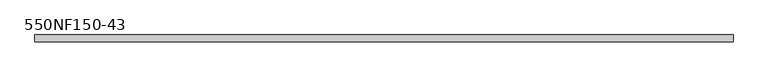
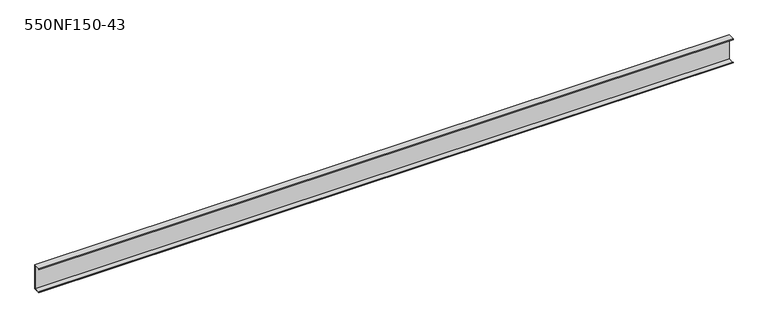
"""IFC4 building model written with IfcOpenShell, lengths in millimetres: beam geometry, BIMSF-SSMA-S : 550NF150-43."""

import ifcopenshell
import ifcopenshell.guid

model = None  # the IFC model being written
_history = None  # IfcOwnerHistory: only IFC2X3 demands one
_inside = {}  # id of a spatial element -> (the spatial element, [elements in it])
_under = {}  # id of a project, library or spatial element -> (it, [spatial elements below it])
_declared = {}  # id of a project -> (the project, [libraries it declares])
_typed = {}  # id of a type object -> (the type object, [elements of that type])
_made_of = {}  # id of a material, layer set ... -> (it, [elements and type objects made of it])


def new_model(schema):
    """Start an empty IFC model of exactly this schema.

    Asked for "IFC4X3", IfcOpenShell would pick the latest addendum, in which some entities
    have other attributes; the version numbers below select the first issue.
    IFC2X3 requires an IfcOwnerHistory on every rooted entity: one is made here for all.
    """
    global model, _history
    if schema == "IFC4X3":
        model = ifcopenshell.file(schema_version=(4, 3, 0, 0))
    else:
        model = ifcopenshell.file(schema=schema)
    _inside.clear()
    _under.clear()
    _declared.clear()
    _typed.clear()
    _made_of.clear()
    _history = None
    if model.schema == "IFC2X3":
        org = make("IfcOrganization", Name="unknown")
        user = make(
            "IfcPersonAndOrganization",
            ThePerson=make("IfcPerson", FamilyName="unknown"),
            TheOrganization=org,
        )
        app = make(
            "IfcApplication",
            ApplicationDeveloper=org,
            Version="unknown",
            ApplicationFullName="unknown",
            ApplicationIdentifier="unknown",
        )
        _history = make(
            "IfcOwnerHistory",
            OwningUser=user,
            OwningApplication=app,
            ChangeAction="ADDED",
            CreationDate=0,
        )
    return model


def make(cls, **values):
    """One entity of the class cls with the attributes given. An attribute that is None is left unset."""
    return model.create_entity(
        cls, **{name: value for name, value in values.items() if value is not None}
    )


def rooted(cls, **values):
    """An entity with a GlobalId (a new one), such as an element, a storey or a relation."""
    return make(cls, GlobalId=ifcopenshell.guid.new(), OwnerHistory=_history, **values)


def si_unit(unit_type, name, prefix=None):
    """IfcSIUnit, for example si_unit("LENGTHUNIT", "METRE", prefix="MILLI")."""
    return make("IfcSIUnit", UnitType=unit_type, Prefix=prefix, Name=name)


def assignment(units):
    """IfcUnitAssignment: the units of a project."""
    return None if units is None else make("IfcUnitAssignment", Units=units)


def point(xyz):
    """IfcCartesianPoint."""
    return None if xyz is None else make("IfcCartesianPoint", Coordinates=xyz)


def direction(xyz):
    """IfcDirection."""
    return None if xyz is None else make("IfcDirection", DirectionRatios=xyz)


def frame(location, z_axis=None, x_axis=None):
    """IfcAxis2Placement3D, a coordinate frame: its origin and axes. An axis left out is left unset."""
    return make(
        "IfcAxis2Placement3D",
        Location=point(location),
        Axis=direction(z_axis),
        RefDirection=direction(x_axis),
    )


def origin():
    """The frame at (0, 0, 0) with its axes left unset."""
    return frame((0.0, 0.0, 0.0))


def place(relative_to, where):
    """IfcLocalPlacement: puts the frame where relative to a parent placement (None: the world)."""
    return make(
        "IfcLocalPlacement", PlacementRelTo=relative_to, RelativePlacement=where
    )


def context(
    kind, dimensions, precision=None, world=None, true_north=None, identifier=None
):
    """IfcGeometricRepresentationContext, for example the 3D "Model" context."""
    return make(
        "IfcGeometricRepresentationContext",
        ContextIdentifier=identifier,
        ContextType=kind,
        CoordinateSpaceDimension=dimensions,
        Precision=precision,
        WorldCoordinateSystem=world,
        TrueNorth=true_north,
    )


def project(units=None, contexts=None):
    """IfcProject with its units and contexts."""
    return rooted(
        "IfcProject",
        Name="project",
        RepresentationContexts=contexts,
        UnitsInContext=assignment(units),
    )


def spatial(cls, under=None, at=None, **own):
    """A site, building, storey or space (cls), placed at a placement, below another one or the project."""
    s = rooted(cls, ObjectPlacement=at, **own)
    if under is not None:
        _under.setdefault(under.id(), (under, []))[1].append(s)
    return s


def polyline(points):
    """IfcPolyline through the points."""
    return make("IfcPolyline", Points=[point(p) for p in points])


def outline(outer, holes=None, kind="AREA"):
    """IfcArbitraryClosedProfileDef: a profile drawn as a closed curve; with holes, ...WithVoids."""
    if holes is None:
        return make("IfcArbitraryClosedProfileDef", ProfileType=kind, OuterCurve=outer)
    return make(
        "IfcArbitraryProfileDefWithVoids",
        ProfileType=kind,
        OuterCurve=outer,
        InnerCurves=holes,
    )


def extrude(swept, where, along, depth):
    """IfcExtrudedAreaSolid: the profile swept, set in the frame where, extruded along a direction by depth."""
    return make(
        "IfcExtrudedAreaSolid",
        SweptArea=swept,
        Position=where,
        ExtrudedDirection=direction(along),
        Depth=depth,
    )


def shape(context_of_items, identifier, shape_type, items):
    """IfcShapeRepresentation: the items that make up one representation, for example the "Body"."""
    return make(
        "IfcShapeRepresentation",
        ContextOfItems=context_of_items,
        RepresentationIdentifier=identifier,
        RepresentationType=shape_type,
        Items=items,
    )


def source(mapping_origin, context_of_items, identifier, shape_type, items):
    """IfcRepresentationMap: a shape defined once, which mapped items show again and again."""
    return make(
        "IfcRepresentationMap",
        MappingOrigin=mapping_origin,
        MappedRepresentation=shape(context_of_items, identifier, shape_type, items),
    )


def transform(
    local_origin,
    x_axis=None,
    y_axis=None,
    z_axis=None,
    scale=None,
    scale2=None,
    scale3=None,
    uniform=True,
):
    """IfcCartesianTransformationOperator3D, or its non-uniform kind. x_axis, y_axis, z_axis: its Axis1, 2, 3."""
    if uniform:
        return make(
            "IfcCartesianTransformationOperator3D",
            Axis1=direction(x_axis),
            Axis2=direction(y_axis),
            LocalOrigin=point(local_origin),
            Scale=scale,
            Axis3=direction(z_axis),
        )
    return make(
        "IfcCartesianTransformationOperator3DnonUniform",
        Axis1=direction(x_axis),
        Axis2=direction(y_axis),
        LocalOrigin=point(local_origin),
        Scale=scale,
        Axis3=direction(z_axis),
        Scale2=scale2,
        Scale3=scale3,
    )


def mapped(mapping_source, mapping_target):
    """IfcMappedItem: shows the shape of a source again, moved by a transform."""
    return make(
        "IfcMappedItem", MappingSource=mapping_source, MappingTarget=mapping_target
    )


def made_of(thing, what):
    """Note that an element or type object is made of a material, layer set ...; save() writes the relation."""
    if what is not None:
        _made_of.setdefault(what.id(), (what, []))[1].append(thing)
    return thing


def element(
    cls,
    number,
    at=None,
    inside=None,
    cuts=None,
    type_object=None,
    material=None,
    context=None,
    identifier="Body",
    shape_type=None,
    held_by="IfcProductDefinitionShape",
    body=None,
    shapes=None,
    **own,
):
    """One element of the class cls, such as IfcWall. Its Tag is "e" and its number.

    at: its placement. inside: the storey or other place that contains it. cuts: it is an
    opening in that element (IfcRelVoidsElement). A single representation is given by context,
    identifier, shape_type and body (its items); several are given by shapes. held_by: the class
    of the entity that holds the representations. save() writes the other relations.
    """
    e = rooted(cls, Tag="e%d" % number, ObjectPlacement=at, **own)
    if body is not None:
        shapes = [shape(context, identifier, shape_type, body)]
    if shapes is not None:
        e.Representation = make(held_by, Representations=shapes)
    if inside is not None:
        _inside.setdefault(inside.id(), (inside, []))[1].append(e)
    if cuts is not None:
        rooted(
            "IfcRelVoidsElement", RelatingBuildingElement=cuts, RelatedOpeningElement=e
        )
    if type_object is not None:
        _typed.setdefault(type_object.id(), (type_object, []))[1].append(e)
    return made_of(e, material)


def aggregate(whole, parts):
    """IfcRelAggregates: a whole, such as a stair, and the parts it consists of."""
    return rooted("IfcRelAggregates", RelatingObject=whole, RelatedObjects=parts)


def save(model, path):
    """Write the relations noted so far, then the file.

    IfcRelAggregates (storeys below a building ...), IfcRelContainedInSpatialStructure (elements
    in a storey), IfcRelDefinesByType, IfcRelAssociatesMaterial and IfcRelDeclares: one each for
    every whole, place, type object, material and project.
    """
    for whole, parts in _under.values():
        aggregate(whole, parts)
    for where, things in _inside.values():
        rooted(
            "IfcRelContainedInSpatialStructure",
            RelatedElements=things,
            RelatingStructure=where,
        )
    for kind, things in _typed.values():
        rooted("IfcRelDefinesByType", RelatedObjects=things, RelatingType=kind)
    for what, things in _made_of.values():
        rooted("IfcRelAssociatesMaterial", RelatedObjects=things, RelatingMaterial=what)
    for by, libraries in _declared.values():
        rooted("IfcRelDeclares", RelatingContext=by, RelatedDefinitions=libraries)
    model.write(path)


def beam_550nf150_43_fce23402(model_context):
    return source(origin(), model_context, "Body", "SweptSolid", [
        extrude(outline(polyline([(19.05, 69.85), (19.05, -69.85), (-19.05, -69.85), (-19.05, -65.0748), (-17.9003158, -65.0748), (-17.9003158, -68.7003158), (17.9003158, -68.7003158), (17.9003158, 68.7003158), (-17.9003158, 68.7003158), (-17.9003158, 65.0748), (-19.05, 65.0748), (-19.05, 69.85), (19.05, 69.85)])), frame((-1905.0, 0.0, 0.0), z_axis=(1.0, 0.0, 0.0), x_axis=(0.0, 1.0, 0.0)), (0.0, 0.0, 1.0), 3810.0),
    ])


if __name__ == "__main__":
    model = new_model("IFC4")
    model_context = context("Model", 3, world=origin())
    ifc_project = project(units=[si_unit("LENGTHUNIT", "METRE", prefix="MILLI")], contexts=[model_context])
    site = spatial("IfcSite", under=ifc_project)
    building = spatial("IfcBuilding", under=site)
    placement = place(None, origin())
    beam_550nf150_43_shape = beam_550nf150_43_fce23402(model_context)
    element("IfcBeam", 1, ObjectType="BIMSF-SSMA-S : 550NF150-43", at=placement, inside=building, context=model_context, shape_type="MappedRepresentation", body=[
        mapped(beam_550nf150_43_shape, transform((0.0, 0.0, 0.0), x_axis=(1.0, 0.0, 0.0), y_axis=(0.0, 1.0, 0.0), z_axis=(0.0, 0.0, 1.0))),
    ])
    save(model, "model.ifc")
